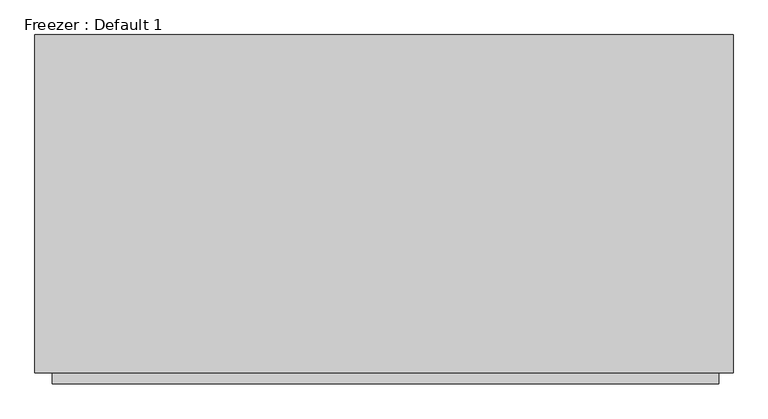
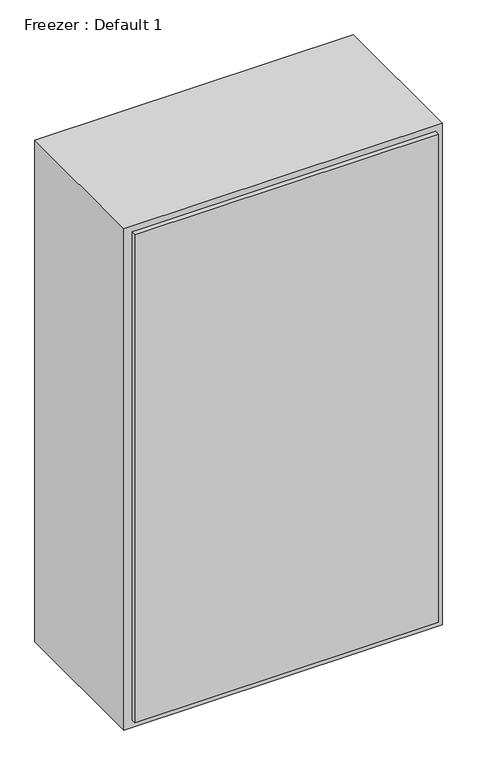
"""IFC4 building model written with IfcOpenShell, lengths in millimetres: proxy geometry, Freezer : Default 1."""

from ifc_helpers import new_model, si_unit, frame, origin, origin_with_axes, place, context, project, spatial, polyline, outline, extrude, source, transform, mapped, element, save


def freezer_default_1_44b13db3(model_context):
    return source(origin(), model_context, "Body", "SweptSolid", [
        extrude(outline(polyline([(223.1430554, 0.0), (223.1430554, -590.55), (-996.0569446, -590.55), (-996.0569446, 0.0), (223.1430554, 0.0)])), origin_with_axes(), (0.0, 0.0, 1.0), 2032.0),
        extrude(outline(polyline([(-966.0569446, -590.55), (198.1430554, -590.55), (198.1430554, -609.6), (-966.0569446, -609.6), (-966.0569446, -590.55)])), frame((0.0, 0.0, 31.6), z_axis=(0.0, 0.0, 1.0), x_axis=(1.0, 0.0, 0.0)), (0.0, 0.0, 1.0), 1977.0),
    ])


if __name__ == "__main__":
    model = new_model("IFC4")
    model_context = context("Model", 3, world=origin())
    ifc_project = project(units=[si_unit("LENGTHUNIT", "METRE", prefix="MILLI")], contexts=[model_context])
    site = spatial("IfcSite", under=ifc_project)
    building = spatial("IfcBuilding", under=site)
    placement = place(None, origin())
    freezer_default_1_shape = freezer_default_1_44b13db3(model_context)
    element("IfcBuildingElementProxy", 1, Name="Freezer : Default 1", ObjectType="Freezer : Default 1", at=placement, inside=building, context=model_context, shape_type="MappedRepresentation", body=[
        mapped(freezer_default_1_shape, transform((0.0, 0.0, 0.0), x_axis=(1.0, 0.0, 0.0), y_axis=(0.0, 1.0, 0.0), z_axis=(0.0, 0.0, 1.0))),
    ])
    save(model, "model.ifc")
